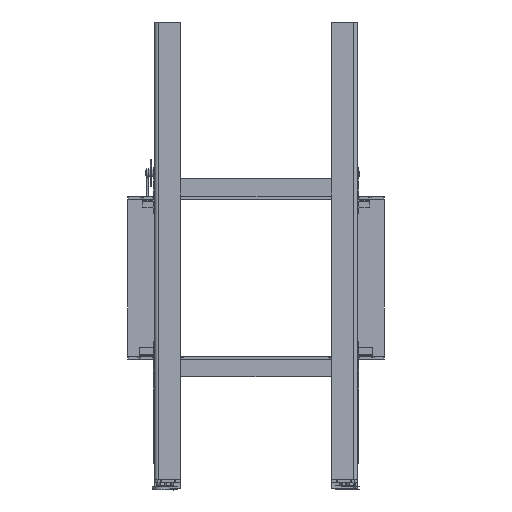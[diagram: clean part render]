
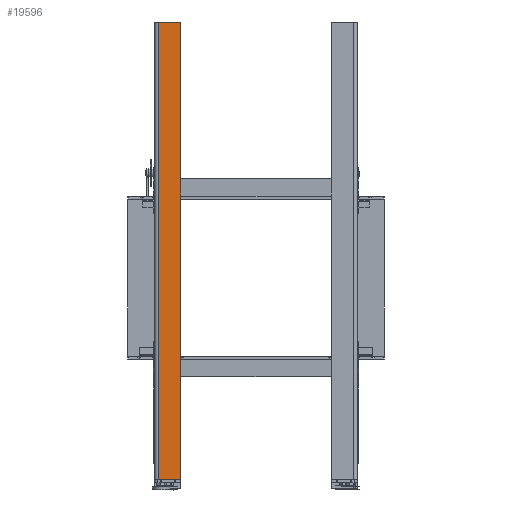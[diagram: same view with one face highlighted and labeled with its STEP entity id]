
A CAD part, front view. The second image highlights one B-rep face of the part: STEP entity #19596.
In plain terms, the highlighted planar face has unit normal (0, -1, 0).
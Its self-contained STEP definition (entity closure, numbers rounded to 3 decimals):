
#1336=LINE('',#28554,#3074);
#1442=LINE('',#28917,#3180);
#1455=LINE('',#28959,#3193);
#1458=LINE('',#28968,#3196);
#1459=LINE('',#28972,#3197);
#1460=LINE('',#28973,#3198);
#3074=VECTOR('',#22728,10.);
#3180=VECTOR('',#23070,10.);
#3193=VECTOR('',#23113,10.);
#3196=VECTOR('',#23126,10.);
#3197=VECTOR('',#23133,10.);
#3198=VECTOR('',#23134,10.);
#5254=FACE_OUTER_BOUND('',#6290,.T.);
#6290=EDGE_LOOP('',(#13543,#13544,#13545,#13546,#13547,#13548,#13549,#13550));
#7397=CIRCLE('',#20730,2.);
#7399=CIRCLE('',#20735,2.);
#8350=VERTEX_POINT('',#28540);
#8356=VERTEX_POINT('',#28552);
#8493=VERTEX_POINT('',#28910);
#8494=VERTEX_POINT('',#28912);
#8495=VERTEX_POINT('',#28916);
#8500=VERTEX_POINT('',#28930);
#8508=VERTEX_POINT('',#28956);
#8509=VERTEX_POINT('',#28958);
#10255=EDGE_CURVE('',#8356,#8350,#1336,.T.);
#10436=EDGE_CURVE('',#8494,#8493,#7397,.T.);
#10438=EDGE_CURVE('',#8495,#8494,#1442,.T.);
#10445=EDGE_CURVE('',#8500,#8495,#7399,.T.);
#10459=EDGE_CURVE('',#8509,#8508,#1455,.T.);
#10465=EDGE_CURVE('',#8493,#8509,#1458,.T.);
#10467=EDGE_CURVE('',#8350,#8508,#1459,.T.);
#10468=EDGE_CURVE('',#8500,#8356,#1460,.T.);
#13543=ORIENTED_EDGE('',*,*,#10436,.T.);
#13544=ORIENTED_EDGE('',*,*,#10465,.T.);
#13545=ORIENTED_EDGE('',*,*,#10459,.T.);
#13546=ORIENTED_EDGE('',*,*,#10467,.F.);
#13547=ORIENTED_EDGE('',*,*,#10255,.F.);
#13548=ORIENTED_EDGE('',*,*,#10468,.F.);
#13549=ORIENTED_EDGE('',*,*,#10445,.T.);
#13550=ORIENTED_EDGE('',*,*,#10438,.T.);
#19014=PLANE('',#20754);
#19596=ADVANCED_FACE('',(#5254),#19014,.T.);
#20730=AXIS2_PLACEMENT_3D('',#28913,#23065,#23066);
#20735=AXIS2_PLACEMENT_3D('',#28931,#23082,#23083);
#20754=AXIS2_PLACEMENT_3D('',#28971,#23131,#23132);
#22728=DIRECTION('',(-1.,0.,0.));
#23065=DIRECTION('center_axis',(0.,-1.,
0.));
#23066=DIRECTION('ref_axis',(0.707,0.,0.707));
#23070=DIRECTION('',(0.,0.,1.));
#23082=DIRECTION('center_axis',(0.,-1.,
0.));
#23083=DIRECTION('ref_axis',(0.707,0.,-0.707));
#23113=DIRECTION('',(0.,0.,-1.));
#23126=DIRECTION('',(-1.,0.,0.));
#23131=DIRECTION('center_axis',(0.,-1.,
0.));
#23132=DIRECTION('ref_axis',(0.,0.,
-1.));
#23133=DIRECTION('',(-1.,0.,0.));
#23134=DIRECTION('',(-1.,0.,0.));
#28540=CARTESIAN_POINT('',(-274.5,-725.511,-803.999));
#28552=CARTESIAN_POINT('',(-232.5,-725.511,-803.999));
#28554=CARTESIAN_POINT('',(-215.5,-725.511,-803.999));
#28910=CARTESIAN_POINT('',(-217.5,-725.493,508.501));
#28912=CARTESIAN_POINT('',(-215.5,-725.493,506.501));
#28913=CARTESIAN_POINT('Origin',(-217.5,-725.493,506.501));
#28916=CARTESIAN_POINT('',(-215.5,-725.511,-801.999));
#28917=CARTESIAN_POINT('',(-215.5,-725.511,-803.999));
#28930=CARTESIAN_POINT('',(-217.5,-725.511,-803.999));
#28931=CARTESIAN_POINT('Origin',(-217.5,-725.511,-801.999));
#28956=CARTESIAN_POINT('',(-281.25,-725.511,-803.999));
#28958=CARTESIAN_POINT('',(-281.25,-725.493,508.501));
#28959=CARTESIAN_POINT('',(-281.25,-725.502,-147.749));
#28968=CARTESIAN_POINT('',(-215.5,-725.493,508.501));
#28971=CARTESIAN_POINT('Origin',(-286.591,-725.502,-147.749));
#28972=CARTESIAN_POINT('',(-215.5,-725.511,-803.999));
#28973=CARTESIAN_POINT('',(-215.5,-725.511,-803.999));
